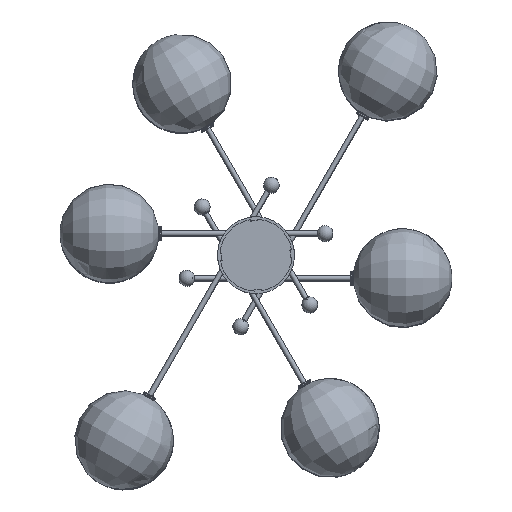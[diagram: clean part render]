
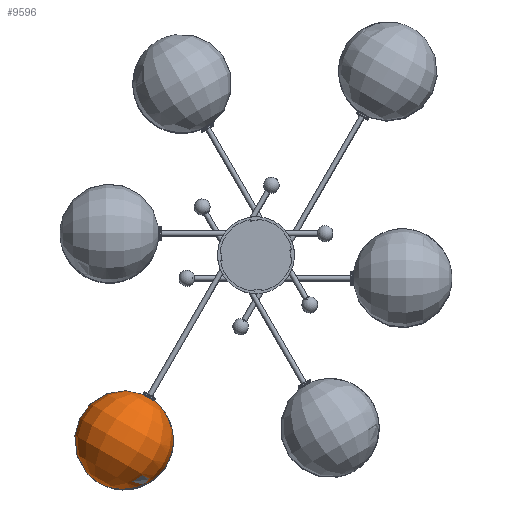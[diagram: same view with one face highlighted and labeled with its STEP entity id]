
A CAD part, top view. The second image highlights one B-rep face of the part: STEP entity #9596.
In plain terms, the highlighted free-form (B-spline) face has degree [2, 2] with [5, 9] control points.
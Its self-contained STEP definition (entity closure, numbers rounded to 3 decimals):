
#63=(
BOUNDED_SURFACE()
B_SPLINE_SURFACE(2,2,((#16309,#16310,#16311,#16312,#16313,#16314,#16315,
#16316,#16317),(#16318,#16319,#16320,#16321,#16322,#16323,#16324,#16325,
#16326),(#16327,#16328,#16329,#16330,#16331,#16332,#16333,#16334,#16335),
(#16336,#16337,#16338,#16339,#16340,#16341,#16342,#16343,#16344),(#16345,
#16346,#16347,#16348,#16349,#16350,#16351,#16352,#16353)),.UNSPECIFIED.,
 .F.,.T.,.F.)
B_SPLINE_SURFACE_WITH_KNOTS((3,2,3),(3,2,2,2,3),(-1.572,-0.066,
1.439),(-3.142,-1.571,0.,1.571,
3.142),.UNSPECIFIED.)
GEOMETRIC_REPRESENTATION_ITEM()
RATIONAL_B_SPLINE_SURFACE(((1.,0.707,1.,0.707,1.,
0.707,1.,0.707,1.),(0.73,0.516,
0.73,0.516,0.73,0.516,0.73,
0.516,0.73),(1.,0.707,1.,0.707,
1.,0.707,1.,0.707,1.),(0.73,0.516,
0.73,0.516,0.73,0.516,
0.73,0.516,0.73),(1.,0.707,
1.,0.707,1.,0.707,1.,0.707,1.)))
REPRESENTATION_ITEM('')
SURFACE()
);
#1062=FACE_OUTER_BOUND('',#1797,.T.);
#1797=EDGE_LOOP('',(#7211,#7212,#7213,#7214));
#3615=CIRCLE('',#10509,16.5);
#3616=CIRCLE('',#10510,125.);
#3617=CIRCLE('',#10511,16.5);
#4479=VERTEX_POINT('',#16354);
#4480=VERTEX_POINT('',#16355);
#4481=VERTEX_POINT('',#16357);
#5508=EDGE_CURVE('',#4479,#4480,#3615,.T.);
#5509=EDGE_CURVE('',#4480,#4481,#3616,.T.);
#5510=EDGE_CURVE('',#4480,#4479,#3617,.T.);
#7211=ORIENTED_EDGE('',*,*,#5508,.T.);
#7212=ORIENTED_EDGE('',*,*,#5509,.T.);
#7213=ORIENTED_EDGE('',*,*,#5509,.F.);
#7214=ORIENTED_EDGE('',*,*,#5510,.T.);
#9596=ADVANCED_FACE('',(#1062),#63,.F.);
#10509=AXIS2_PLACEMENT_3D('',#16356,#12445,#12446);
#10510=AXIS2_PLACEMENT_3D('',#16358,#12447,#12448);
#10511=AXIS2_PLACEMENT_3D('',#16359,#12449,#12450);
#12445=DIRECTION('center_axis',(-0.5,-0.866,0.));
#12446=DIRECTION('ref_axis',(0.209,-0.121,0.97));
#12447=DIRECTION('center_axis',(0.,0.,
-1.));
#12448=DIRECTION('ref_axis',(0.866,-0.5,0.));
#12449=DIRECTION('center_axis',(-0.5,-0.866,0.));
#12450=DIRECTION('ref_axis',(0.209,-0.121,0.97));
#16309=CARTESIAN_POINT('Ctrl Pts',(-396.673,-575.058,1245.111));
#16310=CARTESIAN_POINT('Ctrl Pts',(-396.673,-575.058,1245.111));
#16311=CARTESIAN_POINT('Ctrl Pts',(-396.673,-575.058,1245.111));
#16312=CARTESIAN_POINT('Ctrl Pts',(-396.673,-575.058,1245.111));
#16313=CARTESIAN_POINT('Ctrl Pts',(-396.673,-575.058,1245.111));
#16314=CARTESIAN_POINT('Ctrl Pts',(-396.673,-575.058,1245.111));
#16315=CARTESIAN_POINT('Ctrl Pts',(-396.673,-575.058,1245.111));
#16316=CARTESIAN_POINT('Ctrl Pts',(-396.673,-575.058,1245.111));
#16317=CARTESIAN_POINT('Ctrl Pts',(-396.673,-575.058,1245.111));
#16318=CARTESIAN_POINT('Ctrl Pts',(-295.32,-633.694,
1245.111));
#16319=CARTESIAN_POINT('Ctrl Pts',(-295.32,-633.694,
1128.018));
#16320=CARTESIAN_POINT('Ctrl Pts',(-396.725,-575.148,
1128.018));
#16321=CARTESIAN_POINT('Ctrl Pts',(-498.13,-516.601,
1128.018));
#16322=CARTESIAN_POINT('Ctrl Pts',(-498.13,-516.601,
1245.111));
#16323=CARTESIAN_POINT('Ctrl Pts',(-498.13,-516.601,
1362.203));
#16324=CARTESIAN_POINT('Ctrl Pts',(-396.725,-575.148,
1362.203));
#16325=CARTESIAN_POINT('Ctrl Pts',(-295.32,-633.694,
1362.203));
#16326=CARTESIAN_POINT('Ctrl Pts',(-295.32,-633.694,
1245.111));
#16327=CARTESIAN_POINT('Ctrl Pts',(-230.195,-536.383,
1245.111));
#16328=CARTESIAN_POINT('Ctrl Pts',(-230.195,-536.383,
1120.274));
#16329=CARTESIAN_POINT('Ctrl Pts',(-338.307,-473.965,
1120.274));
#16330=CARTESIAN_POINT('Ctrl Pts',(-446.419,-411.546,1120.274));
#16331=CARTESIAN_POINT('Ctrl Pts',(-446.419,-411.546,1245.111));
#16332=CARTESIAN_POINT('Ctrl Pts',(-446.419,-411.546,1369.948));
#16333=CARTESIAN_POINT('Ctrl Pts',(-338.307,-473.965,1369.948));
#16334=CARTESIAN_POINT('Ctrl Pts',(-230.195,-536.383,
1369.948));
#16335=CARTESIAN_POINT('Ctrl Pts',(-230.195,-536.383,
1245.111));
#16336=CARTESIAN_POINT('Ctrl Pts',(-165.07,-439.072,
1245.111));
#16337=CARTESIAN_POINT('Ctrl Pts',(-165.07,-439.072,
1112.529));
#16338=CARTESIAN_POINT('Ctrl Pts',(-279.889,-372.782,
1112.529));
#16339=CARTESIAN_POINT('Ctrl Pts',(-394.708,-306.491,
1112.529));
#16340=CARTESIAN_POINT('Ctrl Pts',(-394.708,-306.491,
1245.111));
#16341=CARTESIAN_POINT('Ctrl Pts',(-394.708,-306.491,
1377.692));
#16342=CARTESIAN_POINT('Ctrl Pts',(-279.889,-372.782,
1377.692));
#16343=CARTESIAN_POINT('Ctrl Pts',(-165.07,-439.072,
1377.692));
#16344=CARTESIAN_POINT('Ctrl Pts',(-165.07,-439.072,
1245.111));
#16345=CARTESIAN_POINT('Ctrl Pts',(-257.923,-367.736,
1245.111));
#16346=CARTESIAN_POINT('Ctrl Pts',(-257.923,-367.736,
1228.611));
#16347=CARTESIAN_POINT('Ctrl Pts',(-272.213,-359.486,
1228.611));
#16348=CARTESIAN_POINT('Ctrl Pts',(-286.502,-351.236,
1228.611));
#16349=CARTESIAN_POINT('Ctrl Pts',(-286.502,-351.236,
1245.111));
#16350=CARTESIAN_POINT('Ctrl Pts',(-286.502,-351.236,
1261.611));
#16351=CARTESIAN_POINT('Ctrl Pts',(-272.213,-359.486,
1261.611));
#16352=CARTESIAN_POINT('Ctrl Pts',(-257.923,-367.736,
1261.611));
#16353=CARTESIAN_POINT('Ctrl Pts',(-257.923,-367.736,
1245.111));
#16354=CARTESIAN_POINT('',(-275.662,-357.494,1229.099));
#16355=CARTESIAN_POINT('',(-257.923,-367.736,1245.111));
#16356=CARTESIAN_POINT('Origin',(-272.213,-359.486,1245.111));
#16357=CARTESIAN_POINT('',(-396.673,-575.058,1245.111));
#16358=CARTESIAN_POINT('Origin',(-334.077,-466.86,1245.111));
#16359=CARTESIAN_POINT('Origin',(-272.213,-359.486,1245.111));
